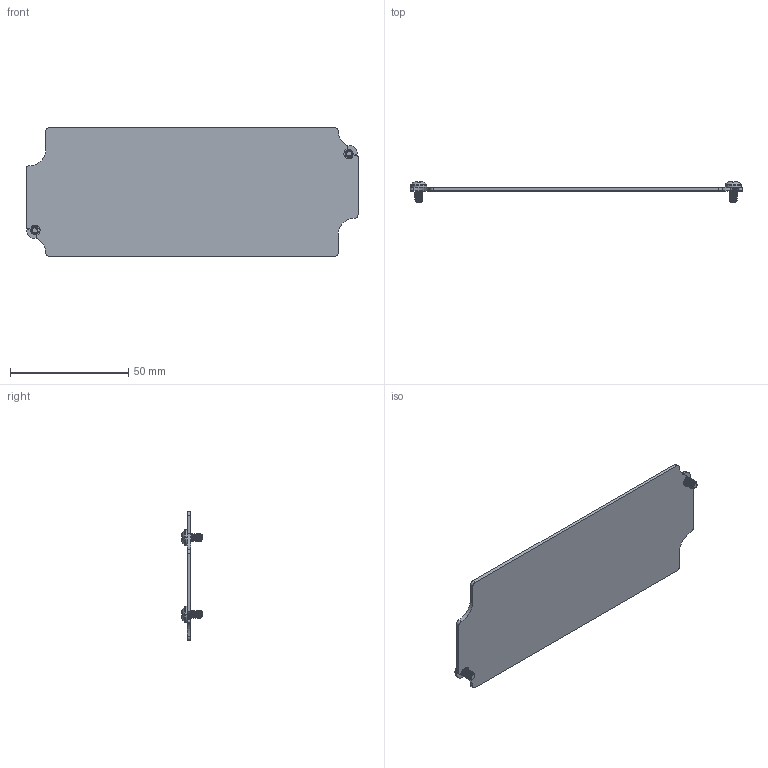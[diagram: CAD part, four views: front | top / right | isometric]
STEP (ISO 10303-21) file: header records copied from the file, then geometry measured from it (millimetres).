
FILE_DESCRIPTION (( 'STEP AP214' ), '1' );
FILE_NAME ('AN-15K.step', '2026-09-17T19:31:28', ( '' ), ( '' ), 'SwSTEP 2.0', 'SolidWorks 2026', '' );
FILE_SCHEMA (( 'AUTOMOTIVE_DESIGN' ));
Length unit declared in the file: inch
Products named in the file (3): SCREWS-050; AN-15K; AN-15-P_DEFAULT
Assembly tree (3 placements, depth 2):
  AN-15K
    AN-15-P_DEFAULT
    SCREWS-050  x2
Bounding box: 140.5 x 8.8 x 54.5 mm (x, y, z)
Volume: 11241.8 mm3; surface area: 15455.1 mm2
Topology: 3 solids, 3 shells, 702 faces, 1704 edges, 1006 vertices
Faces by surface type: bspline 368, cylinder 174, plane 64, sphere 48, cone 40, torus 8
Entity records: 17434 total; most frequent: CARTESIAN_POINT 10071, ORIENTED_EDGE 1790, DIRECTION 1055, EDGE_CURVE 895, VERTEX_POINT 533, B_SPLINE_CURVE_WITH_KNOTS 415, AXIS2_PLACEMENT_3D 386, EDGE_LOOP 368
